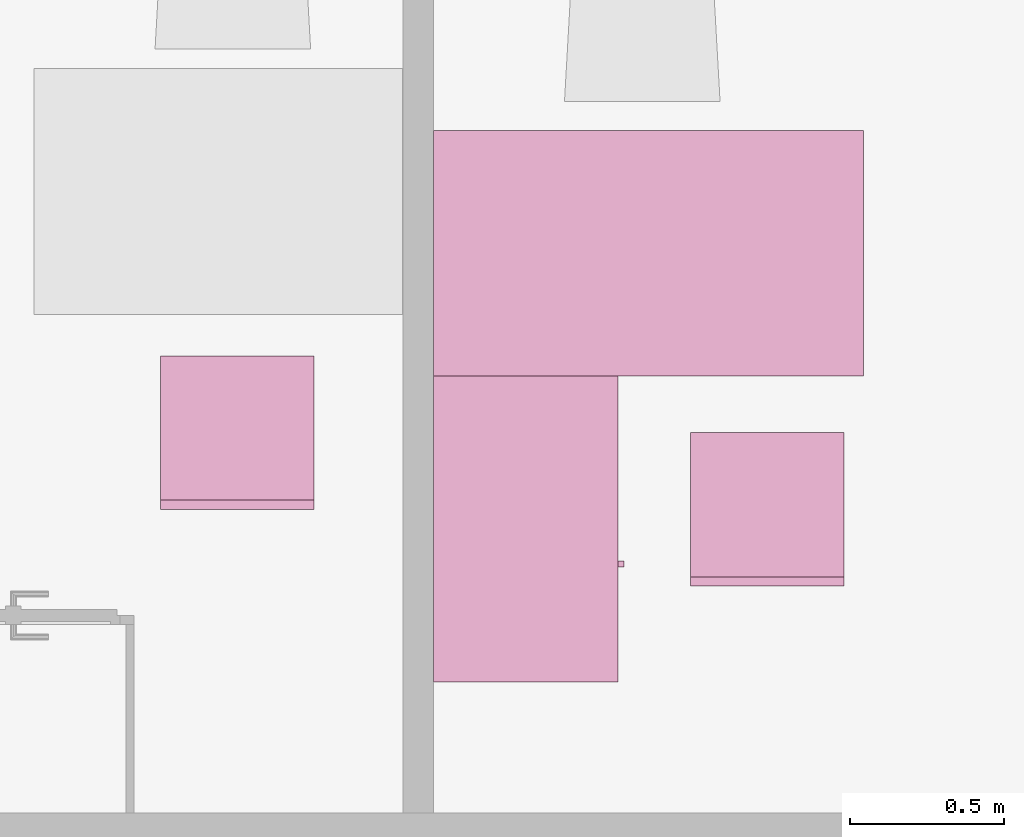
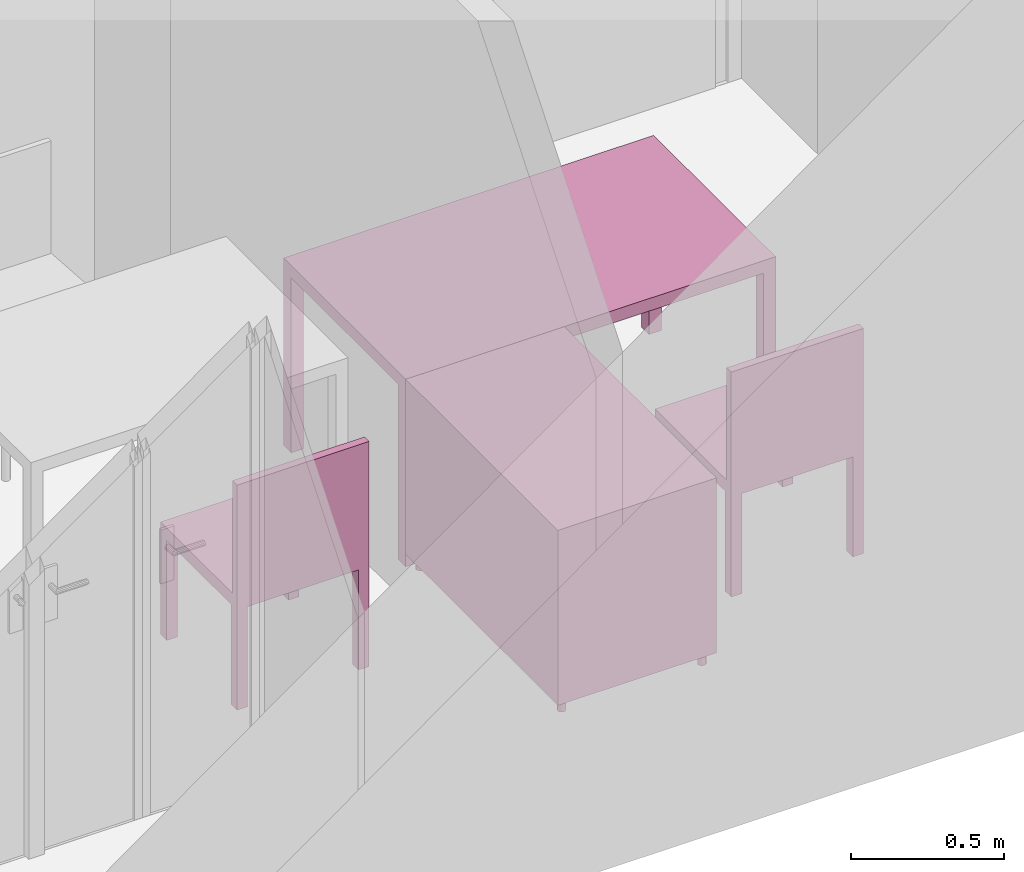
"""IFC4 building model written with IfcOpenShell, lengths in metres."""

from ifc_helpers import new_model, entity, si_unit, converted_unit, derived_unit, frame, origin, place, context, subcontext, project, spatial, faceted_brep, element, save


model = new_model("IFC4")

# Units and contexts
model_context = context("Model", 3, precision=1e-05, world=origin())
body_context = subcontext(model_context, "Body", "Model", "MODEL_VIEW")
ifc_project = project(units=[si_unit("LENGTHUNIT", "METRE"), si_unit("AREAUNIT", "SQUARE_METRE"), si_unit("VOLUMEUNIT", "CUBIC_METRE"), si_unit("MASSUNIT", "GRAM", prefix="KILO"), converted_unit("PLANEANGLEUNIT", "DEGREE", entity("IfcPlaneAngleMeasure", 0.0174532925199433), si_unit("PLANEANGLEUNIT", "RADIAN"), dimensions=[0, 0, 0, 0, 0, 0, 0]), derived_unit("THERMALTRANSMITTANCEUNIT", [(si_unit("POWERUNIT", "WATT"), 1), (si_unit("THERMODYNAMICTEMPERATUREUNIT", "KELVIN"), -1), (si_unit("LENGTHUNIT", "METRE"), -2)]), derived_unit("VOLUMETRICFLOWRATEUNIT", [(si_unit("LENGTHUNIT", "METRE"), 3), (converted_unit("TIMEUNIT", "hour", entity("IfcTimeMeasure", 3600.0), si_unit("TIMEUNIT", "SECOND"), dimensions=[0, 0, 1, 0, 0, 0, 0]), -1), (si_unit("LENGTHUNIT", "METRE"), -1)])], contexts=[model_context])

# Building, storeys
building_placement = place(None, origin())
building = spatial("IfcBuilding", under=ifc_project, at=building_placement, Name="HABITATGE PLURIFAMILIAR", CompositionType="ELEMENT")
storey_1_placement = place(building_placement, frame((0.0, 0.0, 6.25)))
storey_1 = spatial("IfcBuildingStorey", under=building, at=storey_1_placement, Name="PLANTA PRIMERA", CompositionType="ELEMENT", Elevation=6.25)
storey_2_placement = place(storey_1_placement, frame((0.0, 0.0, 3.35)))
storey_2 = spatial("IfcBuildingStorey", under=storey_1, at=storey_2_placement, Name="NOU", CompositionType="PARTIAL")

# Furniture
furniture_1_placement = place(storey_2_placement, frame((408.337412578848, 14.5427210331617, -3.35)))
element("IfcFurniture", 1, at=furniture_1_placement, inside=storey_2, Name="Taula 140X80_P1", context=body_context, shape_type="Brep", body=[
    faceted_brep([(1.40000000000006, 0.05, 0.0), (1.35357142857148, 0.05, 0.0), (1.35357142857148, 0.0, 0.0), (1.40000000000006, 0.0, 0.0), (1.40000000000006, 0.0, 0.7), (1.35357142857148, 0.0, 0.7), (1.35357142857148, 0.05, 0.7), (1.40000000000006, 0.05, 0.7)], [[[0, 1, 2, 3]], [[4, 5, 6, 7]], [[3, 4, 7, 0]], [[2, 5, 4, 3]], [[1, 6, 5, 2]], [[0, 7, 6, 1]]], orient=[[False], [False], [False], [False], [False], [False]]),
    faceted_brep([(1.40000000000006, 0.800069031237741, 0.0), (1.35357142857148, 0.800069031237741, 0.0), (1.35357142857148, 0.750069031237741, 0.0), (1.40000000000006, 0.750069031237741, 0.0), (1.40000000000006, 0.750069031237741, 0.7), (1.35357142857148, 0.750069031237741, 0.7), (1.35357142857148, 0.800069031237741, 0.7), (1.40000000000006, 0.800069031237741, 0.7)], [[[0, 1, 2, 3]], [[4, 5, 6, 7]], [[3, 4, 7, 0]], [[2, 5, 4, 3]], [[1, 6, 5, 2]], [[0, 7, 6, 1]]], orient=[[False], [False], [False], [False], [False], [False]]),
    faceted_brep([(1.4, 0.800069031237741, 0.7), (0.0, 0.800069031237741, 0.7), (0.0, 0.0, 0.7), (1.4, 0.0, 0.7), (1.4, 0.0, 0.75), (0.0, 0.0, 0.75), (0.0, 0.800069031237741, 0.75), (1.4, 0.800069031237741, 0.75)], [[[0, 1, 2, 3]], [[4, 5, 6, 7]], [[3, 4, 7, 0]], [[2, 5, 4, 3]], [[1, 6, 5, 2]], [[0, 7, 6, 1]]], orient=[[False], [False], [False], [False], [False], [False]]),
    faceted_brep([(0.0464285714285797, 0.05, 0.0), (0.0, 0.05, 0.0), (0.0, 0.0, 0.0), (0.0464285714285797, 0.0, 0.0), (0.0464285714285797, 0.0, 0.7), (0.0, 0.0, 0.7), (0.0, 0.05, 0.7), (0.0464285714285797, 0.05, 0.7)], [[[0, 1, 2, 3]], [[4, 5, 6, 7]], [[3, 4, 7, 0]], [[2, 5, 4, 3]], [[1, 6, 5, 2]], [[0, 7, 6, 1]]], orient=[[False], [False], [False], [False], [False], [False]]),
    faceted_brep([(0.0464285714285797, 0.800069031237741, 0.0), (0.0, 0.800069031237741, 0.0), (0.0, 0.750069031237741, 0.0), (0.0464285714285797, 0.750069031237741, 0.0), (0.0464285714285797, 0.750069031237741, 0.7), (0.0, 0.750069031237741, 0.7), (0.0, 0.800069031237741, 0.7), (0.0464285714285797, 0.800069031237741, 0.7)], [[[0, 1, 2, 3]], [[4, 5, 6, 7]], [[3, 4, 7, 0]], [[2, 5, 4, 3]], [[1, 6, 5, 2]], [[0, 7, 6, 1]]], orient=[[False], [False], [False], [False], [False], [False]]),
])
furniture_2_placement = place(storey_2_placement, frame((408.337412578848, 13.5457751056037, -3.35)))
element("IfcFurniture", 2, at=furniture_2_placement, inside=storey_2, Name="Taula 100X60_P1", context=body_context, shape_type="Brep", body=[
    faceted_brep([(0.0, 1.00000000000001, 0.05), (0.6, 1.00000000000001, 0.05), (0.6, 1.00000000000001, 0.07), (0.0, 1.00000000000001, 0.07), (0.6, 0.0, 0.05), (0.6, 0.0, 0.07), (0.0, 0.0, 0.05), (0.0, 0.0, 0.07)], [[[0, 1, 2, 3]], [[1, 4, 5, 2]], [[4, 6, 7, 5]], [[6, 0, 3, 7]], [[0, 6, 4, 1]], [[3, 2, 5, 7]]], orient=[[False], [False], [False], [False], [False], [False]]),
    faceted_brep([(0.58, 1.00000000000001, 0.35), (0.0, 1.00000000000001, 0.35), (0.0, 0.0, 0.35), (0.58, 0.0, 0.35), (0.0, 1.00000000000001, 0.37), (0.58, 1.00000000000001, 0.37), (0.58, 0.0, 0.37), (0.0, 0.0, 0.37)], [[[0, 1, 2, 3]], [[4, 5, 6, 7]], [[1, 0, 5, 4]], [[2, 1, 4, 7]], [[3, 2, 7, 6]], [[0, 3, 6, 5]]], orient=[[False], [False], [False], [False], [False], [False]]),
    faceted_brep([(0.58, 0.490000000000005, 0.75), (0.58, 0.490000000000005, 0.05), (0.6, 0.490000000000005, 0.05), (0.6, 0.490000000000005, 0.75), (0.58, 0.0, 0.05), (0.6, 0.0, 0.05), (0.58, 0.0, 0.75), (0.6, 0.0, 0.75)], [[[0, 1, 2, 3]], [[1, 4, 5, 2]], [[4, 6, 7, 5]], [[6, 0, 3, 7]], [[0, 6, 4, 1]], [[3, 2, 5, 7]]], orient=[[False], [False], [False], [False], [False], [False]]),
    faceted_brep([(0.0, 0.980000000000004, 0.75), (0.0, 0.980000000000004, 0.0499999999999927), (0.0, 1.0, 0.0499999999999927), (0.0, 1.0, 0.75), (0.6, 0.980000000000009, 0.05), (0.6, 1.00000000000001, 0.05), (0.6, 0.980000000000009, 0.75), (0.6, 1.00000000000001, 0.75)], [[[0, 1, 2, 3]], [[1, 4, 5, 2]], [[4, 6, 7, 5]], [[6, 0, 3, 7]], [[0, 6, 4, 1]], [[3, 2, 5, 7]]], orient=[[False], [False], [False], [False], [False], [False]]),
    faceted_brep([(0.0, 0.470000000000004, 0.75), (0.0, 0.470000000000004, 0.0499999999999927), (0.0, 0.490000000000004, 0.0499999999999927), (0.0, 0.490000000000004, 0.75), (0.6, 0.470000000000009, 0.05), (0.6, 0.490000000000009, 0.05), (0.6, 0.470000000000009, 0.75), (0.6, 0.490000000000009, 0.75)], [[[0, 1, 2, 3]], [[1, 4, 5, 2]], [[4, 6, 7, 5]], [[6, 0, 3, 7]], [[0, 6, 4, 1]], [[3, 2, 5, 7]]], orient=[[False], [False], [False], [False], [False], [False]]),
    faceted_brep([(0.0, 0.47, 0.75000000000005), (0.0, 0.47, 0.0499999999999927), (0.0, 0.490000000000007, 0.0499999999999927), (0.0, 0.490000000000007, 0.75000000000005), (0.579999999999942, 0.469999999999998, 0.0499999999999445), (0.579999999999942, 0.490000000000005, 0.0499999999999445), (0.58, 0.469999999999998, 0.750000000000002), (0.58, 0.490000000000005, 0.750000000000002)], [[[0, 1, 2, 3]], [[1, 4, 5, 2]], [[4, 6, 7, 5]], [[6, 0, 3, 7]], [[0, 6, 4, 1]], [[3, 2, 5, 7]]], orient=[[False], [False], [False], [False], [False], [False]]),
    faceted_brep([(0.0, 0.0, 0.75), (0.0, 0.0, 0.0499999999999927), (0.0, 0.0200000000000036, 0.0499999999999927), (0.0, 0.0200000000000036, 0.75), (0.6, 0.0, 0.05), (0.6, 0.0200000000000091, 0.05), (0.6, 0.0, 0.75), (0.6, 0.0200000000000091, 0.75)], [[[0, 1, 2, 3]], [[1, 4, 5, 2]], [[4, 6, 7, 5]], [[6, 0, 3, 7]], [[0, 6, 4, 1]], [[3, 2, 5, 7]]], orient=[[False], [False], [False], [False], [False], [False]]),
    faceted_brep([(0.0, 1.00000000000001, 0.73), (0.6, 1.00000000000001, 0.73), (0.6, 1.00000000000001, 0.75), (0.0, 1.00000000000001, 0.75), (0.6, 0.0, 0.73), (0.6, 0.0, 0.75), (0.0, 0.0, 0.73), (0.0, 0.0, 0.75)], [[[0, 1, 2, 3]], [[1, 4, 5, 2]], [[4, 6, 7, 5]], [[6, 0, 3, 7]], [[0, 6, 4, 1]], [[3, 2, 5, 7]]], orient=[[False], [False], [False], [False], [False], [False]]),
    faceted_brep([(0.0, 0.980000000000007, 0.75), (0.0, 0.980000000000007, 0.05), (0.02, 0.980000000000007, 0.05), (0.02, 0.980000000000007, 0.75), (0.0, 0.0, 0.05), (0.02, 0.0, 0.05), (0.0, 0.0, 0.75), (0.02, 0.0, 0.75)], [[[0, 1, 2, 3]], [[1, 4, 5, 2]], [[4, 6, 7, 5]], [[6, 0, 3, 7]], [[0, 6, 4, 1]], [[3, 2, 5, 7]]], orient=[[False], [False], [False], [False], [False], [False]]),
    faceted_brep([(0.6, 0.374420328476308, 0.35), (0.62, 0.374420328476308, 0.35), (0.62, 0.394420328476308, 0.35), (0.6, 0.394420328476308, 0.35), (0.6, 0.394420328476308, 0.45), (0.62, 0.394420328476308, 0.45), (0.62, 0.374420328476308, 0.45), (0.6, 0.374420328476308, 0.45)], [[[0, 1, 2, 3]], [[4, 5, 6, 7]], [[3, 4, 7, 0]], [[2, 5, 4, 3]], [[1, 6, 5, 2]], [[0, 7, 6, 1]]], orient=[[False], [False], [False], [False], [False], [False]]),
    faceted_brep([(0.0361788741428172, 0.950063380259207, 0.0), (0.038772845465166, 0.950290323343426, 0.0), (0.0412880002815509, 0.950964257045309, 0.0), (0.0436479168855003, 0.95206470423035, 0.0), (0.0457808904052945, 0.953558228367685, 0.0), (0.0476221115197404, 0.955399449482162, 0.0), (0.0491156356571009, 0.957532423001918, 0.0), (0.0502160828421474, 0.959892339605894, 0.0), (0.0508900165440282, 0.962407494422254, 0.0), (0.0511169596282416, 0.96500146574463, 0.0), (0.0508900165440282, 0.967595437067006, 0.0), (0.0502160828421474, 0.970110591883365, 0.0), (0.0491156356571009, 0.972470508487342, 0.0), (0.0476221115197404, 0.974603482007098, 0.0), (0.0457808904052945, 0.976444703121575, 0.0), (0.0436479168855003, 0.97793822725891, 0.0), (0.0412880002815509, 0.979038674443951, 0.0), (0.038772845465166, 0.979712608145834, 0.0), (0.0361788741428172, 0.979939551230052, 0.0), (0.0335849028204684, 0.979712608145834, 0.0), (0.0310697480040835, 0.979038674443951, 0.0), (0.0287098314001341, 0.97793822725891, 0.0), (0.02657685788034, 0.976444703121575, 0.0), (0.024735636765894, 0.974603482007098, 0.0), (0.0232421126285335, 0.972470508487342, 0.0), (0.022141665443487, 0.970110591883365, 0.0), (0.0214677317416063, 0.967595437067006, 0.0), (0.0212407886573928, 0.96500146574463, 0.0), (0.0214677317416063, 0.962407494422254, 0.0), (0.022141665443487, 0.959892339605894, 0.0), (0.0232421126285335, 0.957532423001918, 0.0), (0.024735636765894, 0.955399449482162, 0.0), (0.02657685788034, 0.953558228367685, 0.0), (0.0287098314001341, 0.95206470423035, 0.0), (0.0310697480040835, 0.950964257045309, 0.0), (0.0335849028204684, 0.950290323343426, 0.0), (0.0361788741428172, 0.950063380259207, 0.05), (0.0335849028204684, 0.950290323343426, 0.05), (0.0310697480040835, 0.950964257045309, 0.05), (0.0287098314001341, 0.95206470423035, 0.05), (0.02657685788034, 0.953558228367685, 0.05), (0.024735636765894, 0.955399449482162, 0.05), (0.0232421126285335, 0.957532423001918, 0.05), (0.022141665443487, 0.959892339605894, 0.05), (0.0214677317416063, 0.962407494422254, 0.05), (0.0212407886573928, 0.96500146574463, 0.05), (0.0214677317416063, 0.967595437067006, 0.05), (0.022141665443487, 0.970110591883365, 0.05), (0.0232421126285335, 0.972470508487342, 0.05), (0.024735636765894, 0.974603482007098, 0.05), (0.02657685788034, 0.976444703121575, 0.05), (0.0287098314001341, 0.97793822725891, 0.05), (0.0310697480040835, 0.979038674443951, 0.05), (0.0335849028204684, 0.979712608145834, 0.05), (0.0361788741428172, 0.979939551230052, 0.05), (0.038772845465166, 0.979712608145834, 0.05), (0.0412880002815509, 0.979038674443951, 0.05), (0.0436479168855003, 0.97793822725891, 0.05), (0.0457808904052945, 0.976444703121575, 0.05), (0.0476221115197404, 0.974603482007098, 0.05), (0.0491156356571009, 0.972470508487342, 0.05), (0.0502160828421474, 0.970110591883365, 0.05), (0.0508900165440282, 0.967595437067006, 0.05), (0.0511169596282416, 0.96500146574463, 0.05), (0.0508900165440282, 0.962407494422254, 0.05), (0.0502160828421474, 0.959892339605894, 0.05), (0.0491156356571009, 0.957532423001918, 0.05), (0.0476221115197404, 0.955399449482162, 0.05), (0.0457808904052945, 0.953558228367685, 0.05), (0.0436479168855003, 0.95206470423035, 0.05), (0.0412880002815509, 0.950964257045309, 0.05), (0.038772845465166, 0.950290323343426, 0.05)], [[[0, 1, 2, 3, 4, 5, 6, 7, 8, 9, 10, 11, 12, 13, 14, 15, 16, 17, 18, 19, 20, 21, 22, 23, 24, 25, 26, 27, 28, 29, 30, 31, 32, 33, 34, 35]], [[36, 37, 38, 39, 40, 41, 42, 43, 44, 45, 46, 47, 48, 49, 50, 51, 52, 53, 54, 55, 56, 57, 58, 59, 60, 61, 62, 63, 64, 65, 66, 67, 68, 69, 70, 71]], [[1, 0, 36, 71]], [[2, 1, 71, 70]], [[3, 2, 70, 69]], [[4, 3, 69, 68]], [[5, 4, 68, 67]], [[6, 5, 67, 66]], [[7, 6, 66, 65]], [[8, 7, 65, 64]], [[9, 8, 64, 63]], [[10, 9, 63, 62]], [[11, 10, 62, 61]], [[12, 11, 61, 60]], [[13, 12, 60, 59]], [[14, 13, 59, 58]], [[15, 14, 58, 57]], [[16, 15, 57, 56]], [[17, 16, 56, 55]], [[18, 17, 55, 54]], [[19, 18, 54, 53]], [[20, 19, 53, 52]], [[21, 20, 52, 51]], [[22, 21, 51, 50]], [[23, 22, 50, 49]], [[24, 23, 49, 48]], [[25, 24, 48, 47]], [[26, 25, 47, 46]], [[27, 26, 46, 45]], [[28, 27, 45, 44]], [[29, 28, 44, 43]], [[30, 29, 43, 42]], [[31, 30, 42, 41]], [[32, 31, 41, 40]], [[33, 32, 40, 39]], [[34, 33, 39, 38]], [[35, 34, 38, 37]], [[0, 35, 37, 36]]], orient=[[False], [False], [False], [False], [False], [False], [False], [False], [False], [False], [False], [False], [False], [False], [False], [False], [False], [False], [False], [False], [False], [False], [False], [False], [False], [False], [False], [False], [False], [False], [False], [False], [False], [False], [False], [False], [False], [False]]),
    faceted_brep([(0.566178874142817, 0.950063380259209, 0.0), (0.568772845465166, 0.950290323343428, 0.0), (0.571288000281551, 0.950964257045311, 0.0), (0.5736479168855, 0.952064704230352, 0.0), (0.575780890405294, 0.953558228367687, 0.0), (0.57762211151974, 0.955399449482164, 0.0), (0.579115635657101, 0.95753242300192, 0.0), (0.580216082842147, 0.959892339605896, 0.0), (0.580890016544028, 0.962407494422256, 0.0), (0.581116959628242, 0.965001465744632, 0.0), (0.580890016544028, 0.967595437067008, 0.0), (0.580216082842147, 0.970110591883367, 0.0), (0.579115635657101, 0.972470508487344, 0.0), (0.57762211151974, 0.9746034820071, 0.0), (0.575780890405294, 0.976444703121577, 0.0), (0.5736479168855, 0.977938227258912, 0.0), (0.571288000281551, 0.979038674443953, 0.0), (0.568772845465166, 0.979712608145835, 0.0), (0.566178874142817, 0.979939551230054, 0.0), (0.563584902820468, 0.979712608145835, 0.0), (0.561069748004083, 0.979038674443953, 0.0), (0.558709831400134, 0.977938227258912, 0.0), (0.55657685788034, 0.976444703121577, 0.0), (0.554735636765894, 0.9746034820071, 0.0), (0.553242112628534, 0.972470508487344, 0.0), (0.552141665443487, 0.970110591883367, 0.0), (0.551467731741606, 0.967595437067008, 0.0), (0.551240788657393, 0.965001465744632, 0.0), (0.551467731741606, 0.962407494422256, 0.0), (0.552141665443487, 0.959892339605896, 0.0), (0.553242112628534, 0.95753242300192, 0.0), (0.554735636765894, 0.955399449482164, 0.0), (0.55657685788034, 0.953558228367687, 0.0), (0.558709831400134, 0.952064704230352, 0.0), (0.561069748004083, 0.950964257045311, 0.0), (0.563584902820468, 0.950290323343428, 0.0), (0.566178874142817, 0.950063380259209, 0.05), (0.563584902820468, 0.950290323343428, 0.05), (0.561069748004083, 0.950964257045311, 0.05), (0.558709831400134, 0.952064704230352, 0.05), (0.55657685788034, 0.953558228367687, 0.05), (0.554735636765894, 0.955399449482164, 0.05), (0.553242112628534, 0.95753242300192, 0.05), (0.552141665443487, 0.959892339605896, 0.05), (0.551467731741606, 0.962407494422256, 0.05), (0.551240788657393, 0.965001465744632, 0.05), (0.551467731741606, 0.967595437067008, 0.05), (0.552141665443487, 0.970110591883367, 0.05), (0.553242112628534, 0.972470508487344, 0.05), (0.554735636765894, 0.9746034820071, 0.05), (0.55657685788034, 0.976444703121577, 0.05), (0.558709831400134, 0.977938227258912, 0.05), (0.561069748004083, 0.979038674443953, 0.05), (0.563584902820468, 0.979712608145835, 0.05), (0.566178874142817, 0.979939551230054, 0.05), (0.568772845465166, 0.979712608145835, 0.05), (0.571288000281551, 0.979038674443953, 0.05), (0.5736479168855, 0.977938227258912, 0.05), (0.575780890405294, 0.976444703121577, 0.05), (0.57762211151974, 0.9746034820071, 0.05), (0.579115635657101, 0.972470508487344, 0.05), (0.580216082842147, 0.970110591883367, 0.05), (0.580890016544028, 0.967595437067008, 0.05), (0.581116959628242, 0.965001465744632, 0.05), (0.580890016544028, 0.962407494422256, 0.05), (0.580216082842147, 0.959892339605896, 0.05), (0.579115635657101, 0.95753242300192, 0.05), (0.57762211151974, 0.955399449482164, 0.05), (0.575780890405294, 0.953558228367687, 0.05), (0.5736479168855, 0.952064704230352, 0.05), (0.571288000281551, 0.950964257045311, 0.05), (0.568772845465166, 0.950290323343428, 0.05)], [[[0, 1, 2, 3, 4, 5, 6, 7, 8, 9, 10, 11, 12, 13, 14, 15, 16, 17, 18, 19, 20, 21, 22, 23, 24, 25, 26, 27, 28, 29, 30, 31, 32, 33, 34, 35]], [[36, 37, 38, 39, 40, 41, 42, 43, 44, 45, 46, 47, 48, 49, 50, 51, 52, 53, 54, 55, 56, 57, 58, 59, 60, 61, 62, 63, 64, 65, 66, 67, 68, 69, 70, 71]], [[1, 0, 36, 71]], [[2, 1, 71, 70]], [[3, 2, 70, 69]], [[4, 3, 69, 68]], [[5, 4, 68, 67]], [[6, 5, 67, 66]], [[7, 6, 66, 65]], [[8, 7, 65, 64]], [[9, 8, 64, 63]], [[10, 9, 63, 62]], [[11, 10, 62, 61]], [[12, 11, 61, 60]], [[13, 12, 60, 59]], [[14, 13, 59, 58]], [[15, 14, 58, 57]], [[16, 15, 57, 56]], [[17, 16, 56, 55]], [[18, 17, 55, 54]], [[19, 18, 54, 53]], [[20, 19, 53, 52]], [[21, 20, 52, 51]], [[22, 21, 51, 50]], [[23, 22, 50, 49]], [[24, 23, 49, 48]], [[25, 24, 48, 47]], [[26, 25, 47, 46]], [[27, 26, 46, 45]], [[28, 27, 45, 44]], [[29, 28, 44, 43]], [[30, 29, 43, 42]], [[31, 30, 42, 41]], [[32, 31, 41, 40]], [[33, 32, 40, 39]], [[34, 33, 39, 38]], [[35, 34, 38, 37]], [[0, 35, 37, 36]]], orient=[[False], [False], [False], [False], [False], [False], [False], [False], [False], [False], [False], [False], [False], [False], [False], [False], [False], [False], [False], [False], [False], [False], [False], [False], [False], [False], [False], [False], [False], [False], [False], [False], [False], [False], [False], [False], [False], [False]]),
    faceted_brep([(0.564999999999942, 0.0200170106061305, 0.0), (0.567593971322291, 0.0202439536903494, 0.0), (0.570109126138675, 0.0209178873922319, 0.0), (0.572469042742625, 0.022018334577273, 0.0), (0.574602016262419, 0.023511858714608, 0.0), (0.576443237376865, 0.0253530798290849, 0.0), (0.577936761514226, 0.0274860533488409, 0.0), (0.579037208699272, 0.0298459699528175, 0.0), (0.579711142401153, 0.032361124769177, 0.0), (0.579938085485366, 0.0349550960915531, 0.0), (0.579711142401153, 0.0375490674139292, 0.0), (0.579037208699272, 0.0400642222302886, 0.0), (0.577936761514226, 0.0424241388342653, 0.0), (0.576443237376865, 0.0445571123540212, 0.0), (0.574602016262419, 0.0463983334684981, 0.0), (0.572469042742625, 0.0478918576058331, 0.0), (0.570109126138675, 0.0489923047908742, 0.0), (0.567593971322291, 0.0496662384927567, 0.0), (0.564999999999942, 0.0498931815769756, 0.0), (0.562406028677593, 0.0496662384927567, 0.0), (0.559890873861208, 0.0489923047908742, 0.0), (0.557530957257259, 0.0478918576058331, 0.0), (0.555397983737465, 0.0463983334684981, 0.0), (0.553556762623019, 0.0445571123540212, 0.0), (0.552063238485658, 0.0424241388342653, 0.0), (0.550962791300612, 0.0400642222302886, 0.0), (0.550288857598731, 0.0375490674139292, 0.0), (0.550061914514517, 0.0349550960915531, 0.0), (0.550288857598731, 0.032361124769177, 0.0), (0.550962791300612, 0.0298459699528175, 0.0), (0.552063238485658, 0.0274860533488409, 0.0), (0.553556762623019, 0.0253530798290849, 0.0), (0.555397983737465, 0.023511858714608, 0.0), (0.557530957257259, 0.022018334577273, 0.0), (0.559890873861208, 0.0209178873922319, 0.0), (0.562406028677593, 0.0202439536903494, 0.0), (0.564999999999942, 0.0200170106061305, 0.05), (0.562406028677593, 0.0202439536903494, 0.05), (0.559890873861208, 0.0209178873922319, 0.05), (0.557530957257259, 0.022018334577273, 0.05), (0.555397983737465, 0.023511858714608, 0.05), (0.553556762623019, 0.0253530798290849, 0.05), (0.552063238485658, 0.0274860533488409, 0.05), (0.550962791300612, 0.0298459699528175, 0.05), (0.550288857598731, 0.032361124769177, 0.05), (0.550061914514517, 0.0349550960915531, 0.05), (0.550288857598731, 0.0375490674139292, 0.05), (0.550962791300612, 0.0400642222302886, 0.05), (0.552063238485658, 0.0424241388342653, 0.05), (0.553556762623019, 0.0445571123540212, 0.05), (0.555397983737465, 0.0463983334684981, 0.05), (0.557530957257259, 0.0478918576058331, 0.05), (0.559890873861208, 0.0489923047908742, 0.05), (0.562406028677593, 0.0496662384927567, 0.05), (0.564999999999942, 0.0498931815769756, 0.05), (0.567593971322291, 0.0496662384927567, 0.05), (0.570109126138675, 0.0489923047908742, 0.05), (0.572469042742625, 0.0478918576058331, 0.05), (0.574602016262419, 0.0463983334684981, 0.05), (0.576443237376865, 0.0445571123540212, 0.05), (0.577936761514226, 0.0424241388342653, 0.05), (0.579037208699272, 0.0400642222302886, 0.05), (0.579711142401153, 0.0375490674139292, 0.05), (0.579938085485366, 0.0349550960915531, 0.05), (0.579711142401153, 0.032361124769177, 0.05), (0.579037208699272, 0.0298459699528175, 0.05), (0.577936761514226, 0.0274860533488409, 0.05), (0.576443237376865, 0.0253530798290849, 0.05), (0.574602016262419, 0.023511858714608, 0.05), (0.572469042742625, 0.022018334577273, 0.05), (0.570109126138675, 0.0209178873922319, 0.05), (0.567593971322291, 0.0202439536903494, 0.05)], [[[0, 1, 2, 3, 4, 5, 6, 7, 8, 9, 10, 11, 12, 13, 14, 15, 16, 17, 18, 19, 20, 21, 22, 23, 24, 25, 26, 27, 28, 29, 30, 31, 32, 33, 34, 35]], [[36, 37, 38, 39, 40, 41, 42, 43, 44, 45, 46, 47, 48, 49, 50, 51, 52, 53, 54, 55, 56, 57, 58, 59, 60, 61, 62, 63, 64, 65, 66, 67, 68, 69, 70, 71]], [[1, 0, 36, 71]], [[2, 1, 71, 70]], [[3, 2, 70, 69]], [[4, 3, 69, 68]], [[5, 4, 68, 67]], [[6, 5, 67, 66]], [[7, 6, 66, 65]], [[8, 7, 65, 64]], [[9, 8, 64, 63]], [[10, 9, 63, 62]], [[11, 10, 62, 61]], [[12, 11, 61, 60]], [[13, 12, 60, 59]], [[14, 13, 59, 58]], [[15, 14, 58, 57]], [[16, 15, 57, 56]], [[17, 16, 56, 55]], [[18, 17, 55, 54]], [[19, 18, 54, 53]], [[20, 19, 53, 52]], [[21, 20, 52, 51]], [[22, 21, 51, 50]], [[23, 22, 50, 49]], [[24, 23, 49, 48]], [[25, 24, 48, 47]], [[26, 25, 47, 46]], [[27, 26, 46, 45]], [[28, 27, 45, 44]], [[29, 28, 44, 43]], [[30, 29, 43, 42]], [[31, 30, 42, 41]], [[32, 31, 41, 40]], [[33, 32, 40, 39]], [[34, 33, 39, 38]], [[35, 34, 38, 37]], [[0, 35, 37, 36]]], orient=[[False], [False], [False], [False], [False], [False], [False], [False], [False], [False], [False], [False], [False], [False], [False], [False], [False], [False], [False], [False], [False], [False], [False], [False], [False], [False], [False], [False], [False], [False], [False], [False], [False], [False], [False], [False], [False], [False]]),
    faceted_brep([(0.0349662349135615, 0.0203520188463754, 0.0), (0.0375602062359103, 0.0205789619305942, 0.0), (0.0400753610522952, 0.0212528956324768, 0.0), (0.0424352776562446, 0.0223533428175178, 0.0), (0.0445682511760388, 0.0238468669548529, 0.0), (0.0464094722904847, 0.0256880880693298, 0.0), (0.0479029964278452, 0.0278210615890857, 0.0), (0.0490034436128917, 0.0301809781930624, 0.0), (0.0496773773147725, 0.0326961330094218, 0.0), (0.0499043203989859, 0.0352901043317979, 0.0), (0.0496773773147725, 0.037884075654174, 0.0), (0.0490034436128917, 0.0403992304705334, 0.0), (0.0479029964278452, 0.0427591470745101, 0.0), (0.0464094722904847, 0.0448921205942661, 0.0), (0.0445682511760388, 0.046733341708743, 0.0), (0.0424352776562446, 0.048226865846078, 0.0), (0.0400753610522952, 0.049327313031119, 0.0), (0.0375602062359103, 0.0500012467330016, 0.0), (0.0349662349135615, 0.0502281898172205, 0.0), (0.0323722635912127, 0.0500012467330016, 0.0), (0.0298571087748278, 0.049327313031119, 0.0), (0.0274971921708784, 0.048226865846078, 0.0), (0.0253642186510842, 0.046733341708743, 0.0), (0.0235229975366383, 0.0448921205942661, 0.0), (0.0220294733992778, 0.0427591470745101, 0.0), (0.0209290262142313, 0.0403992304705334, 0.0), (0.0202550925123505, 0.037884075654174, 0.0), (0.0200281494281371, 0.0352901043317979, 0.0), (0.0202550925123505, 0.0326961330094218, 0.0), (0.0209290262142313, 0.0301809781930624, 0.0), (0.0220294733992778, 0.0278210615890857, 0.0), (0.0235229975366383, 0.0256880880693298, 0.0), (0.0253642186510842, 0.0238468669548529, 0.0), (0.0274971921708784, 0.0223533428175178, 0.0), (0.0298571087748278, 0.0212528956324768, 0.0), (0.0323722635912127, 0.0205789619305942, 0.0), (0.0349662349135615, 0.0203520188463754, 0.05), (0.0323722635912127, 0.0205789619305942, 0.05), (0.0298571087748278, 0.0212528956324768, 0.05), (0.0274971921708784, 0.0223533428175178, 0.05), (0.0253642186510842, 0.0238468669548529, 0.05), (0.0235229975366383, 0.0256880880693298, 0.05), (0.0220294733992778, 0.0278210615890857, 0.05), (0.0209290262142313, 0.0301809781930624, 0.05), (0.0202550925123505, 0.0326961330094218, 0.05), (0.0200281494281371, 0.0352901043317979, 0.05), (0.0202550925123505, 0.037884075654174, 0.05), (0.0209290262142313, 0.0403992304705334, 0.05), (0.0220294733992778, 0.0427591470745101, 0.05), (0.0235229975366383, 0.0448921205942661, 0.05), (0.0253642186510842, 0.046733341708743, 0.05), (0.0274971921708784, 0.048226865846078, 0.05), (0.0298571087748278, 0.049327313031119, 0.05), (0.0323722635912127, 0.0500012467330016, 0.05), (0.0349662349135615, 0.0502281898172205, 0.05), (0.0375602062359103, 0.0500012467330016, 0.05), (0.0400753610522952, 0.049327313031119, 0.05), (0.0424352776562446, 0.048226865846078, 0.05), (0.0445682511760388, 0.046733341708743, 0.05), (0.0464094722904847, 0.0448921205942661, 0.05), (0.0479029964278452, 0.0427591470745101, 0.05), (0.0490034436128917, 0.0403992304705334, 0.05), (0.0496773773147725, 0.037884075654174, 0.05), (0.0499043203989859, 0.0352901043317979, 0.05), (0.0496773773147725, 0.0326961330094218, 0.05), (0.0490034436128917, 0.0301809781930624, 0.05), (0.0479029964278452, 0.0278210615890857, 0.05), (0.0464094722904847, 0.0256880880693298, 0.05), (0.0445682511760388, 0.0238468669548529, 0.05), (0.0424352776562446, 0.0223533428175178, 0.05), (0.0400753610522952, 0.0212528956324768, 0.05), (0.0375602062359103, 0.0205789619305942, 0.05)], [[[0, 1, 2, 3, 4, 5, 6, 7, 8, 9, 10, 11, 12, 13, 14, 15, 16, 17, 18, 19, 20, 21, 22, 23, 24, 25, 26, 27, 28, 29, 30, 31, 32, 33, 34, 35]], [[36, 37, 38, 39, 40, 41, 42, 43, 44, 45, 46, 47, 48, 49, 50, 51, 52, 53, 54, 55, 56, 57, 58, 59, 60, 61, 62, 63, 64, 65, 66, 67, 68, 69, 70, 71]], [[1, 0, 36, 71]], [[2, 1, 71, 70]], [[3, 2, 70, 69]], [[4, 3, 69, 68]], [[5, 4, 68, 67]], [[6, 5, 67, 66]], [[7, 6, 66, 65]], [[8, 7, 65, 64]], [[9, 8, 64, 63]], [[10, 9, 63, 62]], [[11, 10, 62, 61]], [[12, 11, 61, 60]], [[13, 12, 60, 59]], [[14, 13, 59, 58]], [[15, 14, 58, 57]], [[16, 15, 57, 56]], [[17, 16, 56, 55]], [[18, 17, 55, 54]], [[19, 18, 54, 53]], [[20, 19, 53, 52]], [[21, 20, 52, 51]], [[22, 21, 51, 50]], [[23, 22, 50, 49]], [[24, 23, 49, 48]], [[25, 24, 48, 47]], [[26, 25, 47, 46]], [[27, 26, 46, 45]], [[28, 27, 45, 44]], [[29, 28, 44, 43]], [[30, 29, 43, 42]], [[31, 30, 42, 41]], [[32, 31, 41, 40]], [[33, 32, 40, 39]], [[34, 33, 39, 38]], [[35, 34, 38, 37]], [[0, 35, 37, 36]]], orient=[[False], [False], [False], [False], [False], [False], [False], [False], [False], [False], [False], [False], [False], [False], [False], [False], [False], [False], [False], [False], [False], [False], [False], [False], [False], [False], [False], [False], [False], [False], [False], [False], [False], [False], [False], [False], [False], [False]]),
])
furniture_3_placement = place(storey_2_placement, frame((409.173869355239, 13.8582607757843, -3.34942958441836)))
element("IfcFurniture", 3, at=furniture_3_placement, inside=storey_2, Name="Cadira d'Oficina_P1", context=body_context, shape_type="Brep", body=[
    faceted_brep([(0.5, 0.5, 0.4), (0.0, 0.5, 0.4), (0.0, 0.0, 0.4), (0.5, 0.0, 0.4), (0.5, 0.0, 0.45), (0.0, 0.0, 0.45), (0.0, 0.5, 0.45), (0.5, 0.5, 0.45)], [[[0, 1, 2, 3]], [[4, 5, 6, 7]], [[3, 4, 7, 0]], [[2, 5, 4, 3]], [[1, 6, 5, 2]], [[0, 7, 6, 1]]], orient=[[False], [False], [False], [False], [False], [False]]),
    faceted_brep([(0.0, 0.04, 0.0), (0.0, 0.0, 0.0), (0.04, 0.0, 0.0), (0.04, 0.04, 0.0), (0.04, 0.04, 0.4), (0.04, 0.0, 0.4), (0.0, 0.0, 0.4), (0.0, 0.04, 0.4)], [[[0, 1, 2, 3]], [[4, 5, 6, 7]], [[3, 4, 7, 0]], [[2, 5, 4, 3]], [[1, 6, 5, 2]], [[0, 7, 6, 1]]], orient=[[False], [False], [False], [False], [False], [False]]),
    faceted_brep([(0.0, 0.5, 0.0), (0.0, 0.46, 0.0), (0.04, 0.46, 0.0), (0.04, 0.5, 0.0), (0.04, 0.5, 0.4), (0.04, 0.46, 0.4), (0.0, 0.46, 0.4), (0.0, 0.5, 0.4)], [[[0, 1, 2, 3]], [[4, 5, 6, 7]], [[3, 4, 7, 0]], [[2, 5, 4, 3]], [[1, 6, 5, 2]], [[0, 7, 6, 1]]], orient=[[False], [False], [False], [False], [False], [False]]),
    faceted_brep([(0.46, 0.04, 0.0), (0.46, 0.0, 0.0), (0.5, 0.0, 0.0), (0.5, 0.04, 0.0), (0.5, 0.04, 0.4), (0.5, 0.0, 0.4), (0.46, 0.0, 0.4), (0.46, 0.04, 0.4)], [[[0, 1, 2, 3]], [[4, 5, 6, 7]], [[3, 4, 7, 0]], [[2, 5, 4, 3]], [[1, 6, 5, 2]], [[0, 7, 6, 1]]], orient=[[False], [False], [False], [False], [False], [False]]),
    faceted_brep([(0.46, 0.5, 0.0), (0.46, 0.46, 0.0), (0.5, 0.46, 0.0), (0.5, 0.5, 0.0), (0.5, 0.5, 0.4), (0.5, 0.46, 0.4), (0.46, 0.46, 0.4), (0.46, 0.5, 0.4)], [[[0, 1, 2, 3]], [[4, 5, 6, 7]], [[3, 4, 7, 0]], [[2, 5, 4, 3]], [[1, 6, 5, 2]], [[0, 7, 6, 1]]], orient=[[False], [False], [False], [False], [False], [False]]),
    faceted_brep([(0.0, 0.03, 0.45), (0.0, 0.0, 0.45), (0.5, 0.0, 0.45), (0.5, 0.03, 0.45), (0.5, 0.03, 0.9), (0.5, 0.0, 0.9), (0.0, 0.0, 0.9), (0.0, 0.03, 0.9)], [[[0, 1, 2, 3]], [[4, 5, 6, 7]], [[3, 4, 7, 0]], [[2, 5, 4, 3]], [[1, 6, 5, 2]], [[0, 7, 6, 1]]], orient=[[False], [False], [False], [False], [False], [False]]),
])
furniture_4_placement = place(storey_2_placement, frame((407.448607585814, 14.1088217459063, -3.34942958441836)))
element("IfcFurniture", 4, at=furniture_4_placement, inside=storey_2, Name="Cadira d'Oficina_P1", context=body_context, shape_type="Brep", body=[
    faceted_brep([(0.0, 0.5, 0.4), (0.0, 0.0, 0.4), (0.5, 0.0, 0.4), (0.5, 0.5, 0.4), (0.0, 0.0, 0.45), (0.0, 0.5, 0.45), (0.5, 0.5, 0.45), (0.5, 0.0, 0.45)], [[[0, 1, 2, 3]], [[4, 5, 6, 7]], [[1, 0, 5, 4]], [[2, 1, 4, 7]], [[3, 2, 7, 6]], [[0, 3, 6, 5]]], orient=[[False], [False], [False], [False], [False], [False]]),
    faceted_brep([(0.5, 0.04, 0.0), (0.46, 0.04, 0.0), (0.46, 0.0, 0.0), (0.5, 0.0, 0.0), (0.46, 0.04, 0.4), (0.5, 0.04, 0.4), (0.5, 0.0, 0.4), (0.46, 0.0, 0.4)], [[[0, 1, 2, 3]], [[4, 5, 6, 7]], [[1, 0, 5, 4]], [[2, 1, 4, 7]], [[3, 2, 7, 6]], [[0, 3, 6, 5]]], orient=[[False], [False], [False], [False], [False], [False]]),
    faceted_brep([(0.5, 0.5, 0.0), (0.46, 0.5, 0.0), (0.46, 0.46, 0.0), (0.5, 0.46, 0.0), (0.46, 0.5, 0.4), (0.5, 0.5, 0.4), (0.5, 0.46, 0.4), (0.46, 0.46, 0.4)], [[[0, 1, 2, 3]], [[4, 5, 6, 7]], [[1, 0, 5, 4]], [[2, 1, 4, 7]], [[3, 2, 7, 6]], [[0, 3, 6, 5]]], orient=[[False], [False], [False], [False], [False], [False]]),
    faceted_brep([(0.04, 0.04, 0.0), (0.0, 0.04, 0.0), (0.0, 0.0, 0.0), (0.04, 0.0, 0.0), (0.0, 0.04, 0.4), (0.04, 0.04, 0.4), (0.04, 0.0, 0.4), (0.0, 0.0, 0.4)], [[[0, 1, 2, 3]], [[4, 5, 6, 7]], [[1, 0, 5, 4]], [[2, 1, 4, 7]], [[3, 2, 7, 6]], [[0, 3, 6, 5]]], orient=[[False], [False], [False], [False], [False], [False]]),
    faceted_brep([(0.04, 0.5, 0.0), (0.0, 0.5, 0.0), (0.0, 0.46, 0.0), (0.04, 0.46, 0.0), (0.0, 0.5, 0.4), (0.04, 0.5, 0.4), (0.04, 0.46, 0.4), (0.0, 0.46, 0.4)], [[[0, 1, 2, 3]], [[4, 5, 6, 7]], [[1, 0, 5, 4]], [[2, 1, 4, 7]], [[3, 2, 7, 6]], [[0, 3, 6, 5]]], orient=[[False], [False], [False], [False], [False], [False]]),
    faceted_brep([(0.5, 0.03, 0.45), (0.0, 0.03, 0.45), (0.0, 0.0, 0.45), (0.5, 0.0, 0.45), (0.0, 0.03, 0.9), (0.5, 0.03, 0.9), (0.5, 0.0, 0.9), (0.0, 0.0, 0.9)], [[[0, 1, 2, 3]], [[4, 5, 6, 7]], [[1, 0, 5, 4]], [[2, 1, 4, 7]], [[3, 2, 7, 6]], [[0, 3, 6, 5]]], orient=[[False], [False], [False], [False], [False], [False]]),
])

save(model, "model.ifc")
